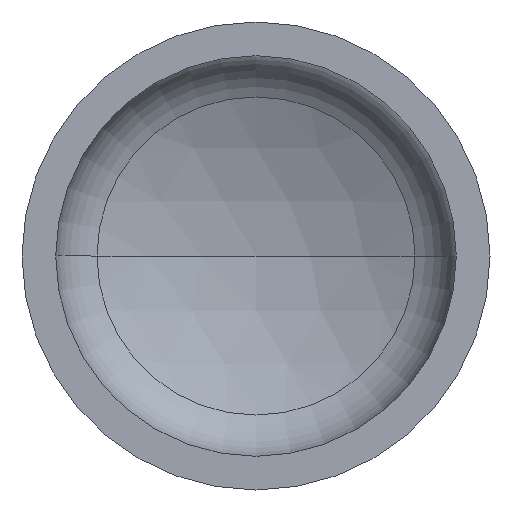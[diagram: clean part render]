
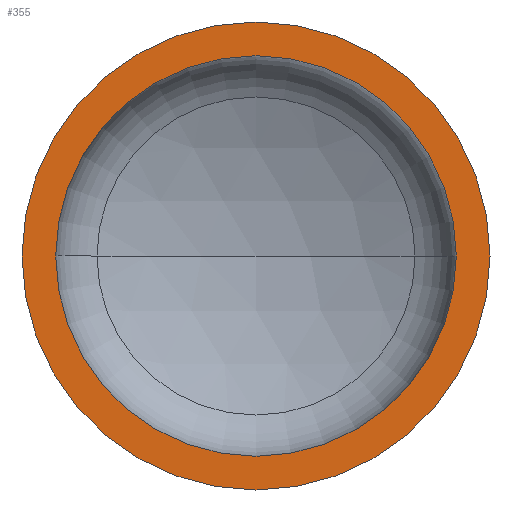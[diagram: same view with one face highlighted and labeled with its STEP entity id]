
A CAD part, front view. The second image highlights one B-rep face of the part: STEP entity #355.
In plain terms, the highlighted planar face has unit normal (0, -1, 0).
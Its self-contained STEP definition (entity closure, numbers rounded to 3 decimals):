
#7 = AXIS2_PLACEMENT_3D ( 'NONE', #392, #261, #237 ) ;
#11 = EDGE_LOOP ( 'NONE', ( #82, #28 ) ) ;
#14 = CARTESIAN_POINT ( 'NONE',  ( 750., 0., 0. ) ) ;
#28 = ORIENTED_EDGE ( 'NONE', *, *, #67, .T. ) ;
#48 = EDGE_LOOP ( 'NONE', ( #54, #106 ) ) ;
#54 = ORIENTED_EDGE ( 'NONE', *, *, #69, .F. ) ;
#55 = AXIS2_PLACEMENT_3D ( 'NONE', #317, #202, #211 ) ;
#58 = AXIS2_PLACEMENT_3D ( 'NONE', #335, #334, #329 ) ;
#62 = AXIS2_PLACEMENT_3D ( 'NONE', #256, #255, #238 ) ;
#63 = EDGE_CURVE ( 'NONE', #132, #121, #207, .T. ) ;
#67 = EDGE_CURVE ( 'NONE', #121, #132, #263, .T. ) ;
#69 = EDGE_CURVE ( 'NONE', #125, #135, #319, .T. ) ;
#82 = ORIENTED_EDGE ( 'NONE', *, *, #63, .T. ) ;
#106 = ORIENTED_EDGE ( 'NONE', *, *, #340, .F. ) ;
#111 = DIRECTION ( 'NONE',  ( 0., 1., 0. ) ) ;
#121 = VERTEX_POINT ( 'NONE', #300 ) ;
#125 = VERTEX_POINT ( 'NONE', #203 ) ;
#132 = VERTEX_POINT ( 'NONE', #14 ) ;
#135 = VERTEX_POINT ( 'NONE', #229 ) ;
#152 = DIRECTION ( 'NONE',  ( -1., 0., 0. ) ) ;
#157 = CIRCLE ( 'NONE', #7, 642. ) ;
#178 = PLANE ( 'NONE',  #378 ) ;
#202 = DIRECTION ( 'NONE',  ( 0., -1., 0. ) ) ;
#203 = CARTESIAN_POINT ( 'NONE',  ( 642., 0., 0. ) ) ;
#207 = CIRCLE ( 'NONE', #62, 750. ) ;
#211 = DIRECTION ( 'NONE',  ( 1., 0., 0. ) ) ;
#224 = CARTESIAN_POINT ( 'NONE',  ( -750., 0., 0. ) ) ;
#229 = CARTESIAN_POINT ( 'NONE',  ( -642., 0., 0. ) ) ;
#237 = DIRECTION ( 'NONE',  ( 1., 0., 0. ) ) ;
#238 = DIRECTION ( 'NONE',  ( 1., 0., 0. ) ) ;
#255 = DIRECTION ( 'NONE',  ( 0., -1., 0. ) ) ;
#256 = CARTESIAN_POINT ( 'NONE',  ( 0., 0., 0. ) ) ;
#261 = DIRECTION ( 'NONE',  ( 0., -1., 0. ) ) ;
#263 = CIRCLE ( 'NONE', #58, 750. ) ;
#300 = CARTESIAN_POINT ( 'NONE',  ( -750., 0., 0. ) ) ;
#317 = CARTESIAN_POINT ( 'NONE',  ( 0., 0., 0. ) ) ;
#319 = CIRCLE ( 'NONE', #55, 642. ) ;
#329 = DIRECTION ( 'NONE',  ( 1., 0., 0. ) ) ;
#333 = FACE_BOUND ( 'NONE', #48, .T. ) ;
#334 = DIRECTION ( 'NONE',  ( 0., -1., 0. ) ) ;
#335 = CARTESIAN_POINT ( 'NONE',  ( 0., 0., 0. ) ) ;
#340 = EDGE_CURVE ( 'NONE', #135, #125, #157, .T. ) ;
#355 = ADVANCED_FACE ( 'NONE', ( #333, #386 ), #178, .F. ) ;
#378 = AXIS2_PLACEMENT_3D ( 'NONE', #224, #111, #152 ) ;
#386 = FACE_OUTER_BOUND ( 'NONE', #11, .T. ) ;
#392 = CARTESIAN_POINT ( 'NONE',  ( 0., 0., 0. ) ) ;
